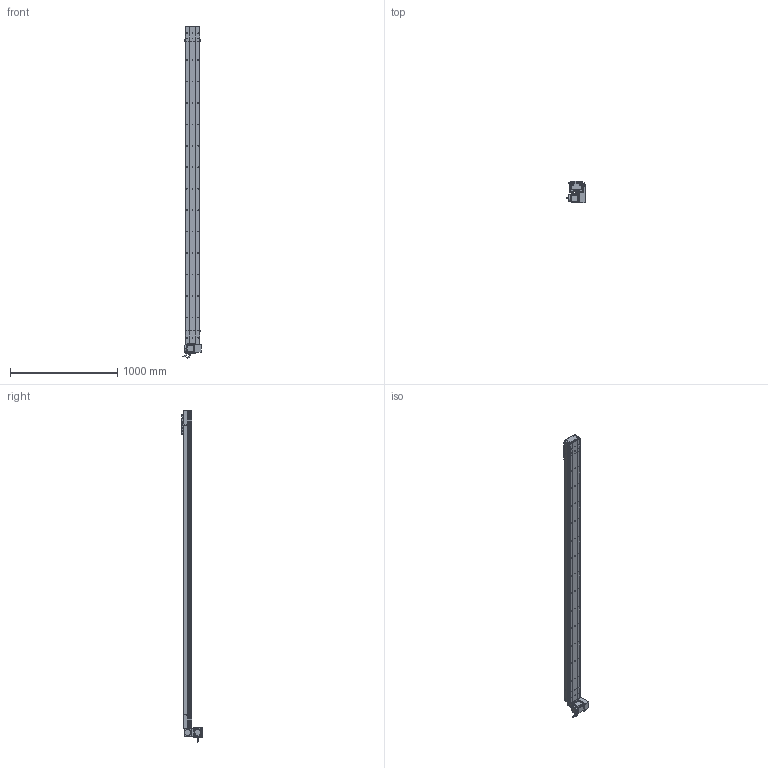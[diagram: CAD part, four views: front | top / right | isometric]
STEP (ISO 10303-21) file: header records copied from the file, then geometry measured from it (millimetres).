
FILE_DESCRIPTION (( 'STEP AP214' ), '1' );
FILE_NAME ('D14 CBH S2700 LU.STEP', '2010-06-30T07:34:53', ( 'Conseil Régional Haute-Normandie' ), ( 'Conseil Régional Haute-Normandie' ), 'SwSTEP 2.0', 'SolidWorks 2010', '' );
FILE_SCHEMA (( 'AUTOMOTIVE_DESIGN' ));
Length unit declared in the file: millimetre
Products named in the file (28): Head D14 CBH LU; vis CHC M5; couvercle tail CBH D14; chariot supérieur D14; charriot inférieur D14; chariot D14; couvercle Head D14 CBH; Head D14 CBH; Course CBH S2700; couvercle CBH S2700; Support moteur Head D14 CBH; plaque fermeture Head D14 CBH; Vis CHC M8; plaque de maintient CBH D14; corps GMB 90 70 310; avant GMB 90 70 310; GMB 90 70 310; Conecteur_Default; Conecteur2_Default; codeur GMB 90 70 310; Tail CBH D14 A; vis CHC M7; corps CBH S2700; D14 CBH S2700 LU; corps tail  CBH d14 A; plaque de bout tail CBH d14; plaque de bout Head D14 CBH; corps Head D14 CBH
Assembly tree (51 placements, depth 4):
  D14 CBH S2700 LU
    chariot D14
      vis CHC M5  x4
      vis CHC M7  x8
      chariot supérieur D14
      charriot inférieur D14
    Course CBH S2700
      corps CBH S2700
      couvercle CBH S2700
    Head D14 CBH LU
      plaque fermeture Head D14 CBH  x3
      Head D14 CBH
        vis CHC M7  x4
        Vis CHC M8  x2
        couvercle Head D14 CBH
        plaque de maintient CBH D14
        plaque de bout Head D14 CBH
        corps Head D14 CBH
      Support moteur Head D14 CBH
      GMB 90 70 310
        avant GMB 90 70 310
        codeur GMB 90 70 310
        corps GMB 90 70 310
        Conecteur_Default
        Conecteur2_Default
    Tail CBH D14 A
      plaque de maintient CBH D14
      vis CHC M7  x4
      plaque de bout tail CBH d14
      Vis CHC M8  x2
      corps tail  CBH d14 A
      couvercle tail CBH D14
Bounding box: 171.5 x 195.75 x 3095.95 mm (x, y, z)
Volume: 8403962.7 mm3; surface area: 2883004.3 mm2
Topology: 51 solids, 51 shells, 2516 faces, 6536 edges, 4292 vertices
Faces by surface type: plane 1371, bspline 538, cylinder 494, torus 61, cone 48, sphere 4
Entity records: 111397 total; most frequent: CARTESIAN_POINT 58522, ORIENTED_EDGE 11368, DIRECTION 8711, EDGE_CURVE 5684, VERTEX_POINT 3756, VECTOR 3733, LINE 3733, AXIS2_PLACEMENT_3D 2489
